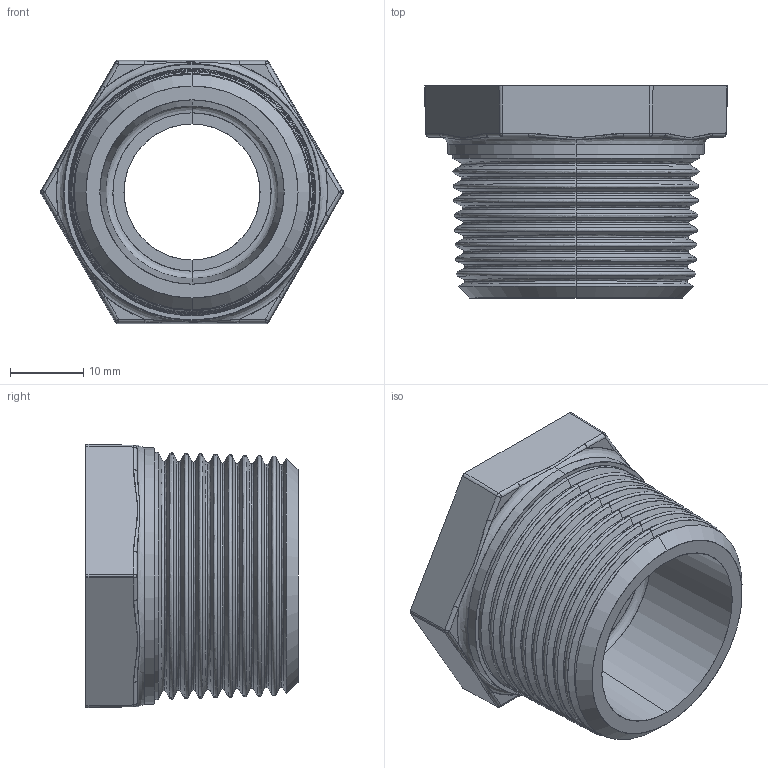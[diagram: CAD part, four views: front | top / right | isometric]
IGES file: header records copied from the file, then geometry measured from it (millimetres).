
Start section: SolidWorks IGES file using analytic representation for surfaces
Global section: file name: C:\Users\Joel Rosa\Desktop\Tubulação\12-01-OK\12-01-032.IGS; native system: SolidWorks 2011; preprocessor: SolidWorks 2011; author: Joel Rosa; date: 121203.200013; units: millimetre
Bounding box: 41.41 x 29 x 36 mm (x, y, z)
Surface area: 8281.2 mm2 (no closed solid volume)
Topology: 0 solids, 0 shells, 333 faces, 2550 edges, 2550 vertices
Faces by surface type: bspline 235, revolution 98
